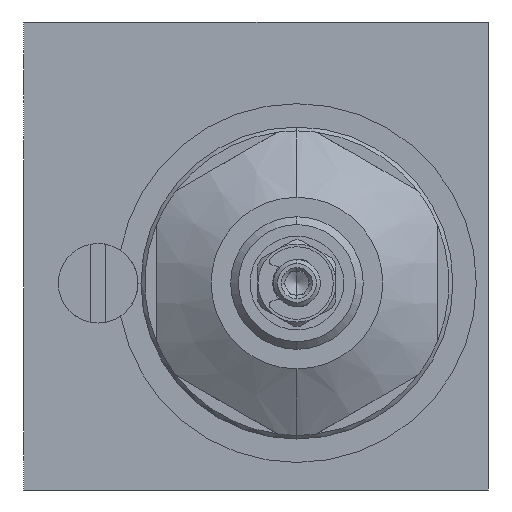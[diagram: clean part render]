
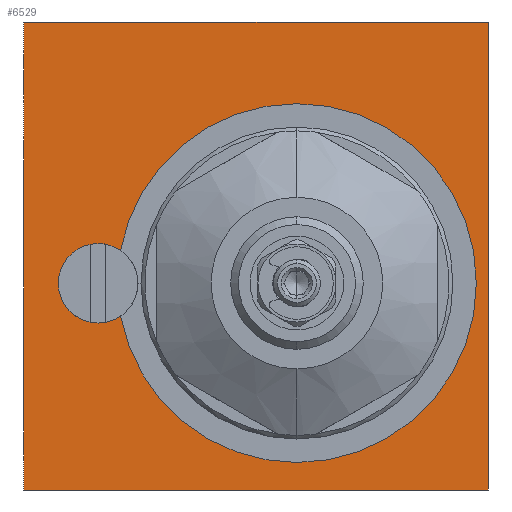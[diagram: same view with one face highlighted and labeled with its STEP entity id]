
A CAD part, left-side view. The second image highlights one B-rep face of the part: STEP entity #6529.
In plain terms, the highlighted planar face has unit normal (-1, 0, 0).
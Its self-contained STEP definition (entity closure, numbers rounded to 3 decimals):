
#782 = VERTEX_POINT ( 'NONE', #9001 ) ;
#988 = DIRECTION ( 'NONE',  ( 0., 0., 1. ) ) ;
#1009 = DIRECTION ( 'NONE',  ( -1., 0., 0. ) ) ;
#1041 = CARTESIAN_POINT ( 'NONE',  ( 0., 29.75, -30. ) ) ;
#1183 = VERTEX_POINT ( 'NONE', #8638 ) ;
#1312 = PLANE ( 'NONE',  #7144 ) ;
#1415 = EDGE_CURVE ( 'NONE', #5901, #782, #6407, .T. ) ;
#1427 = EDGE_CURVE ( 'NONE', #782, #1183, #6354, .T. ) ;
#1605 = VERTEX_POINT ( 'NONE', #1627 ) ;
#1627 = CARTESIAN_POINT ( 'NONE',  ( 0., 20.25, 1.6 ) ) ;
#2294 = VERTEX_POINT ( 'NONE', #3367 ) ;
#3320 = EDGE_CURVE ( 'NONE', #1605, #2294, #10944, .T. ) ;
#3349 = EDGE_CURVE ( 'NONE', #5642, #5901, #10888, .T. ) ;
#3366 = EDGE_CURVE ( 'NONE', #12453, #7062, #10406, .T. ) ;
#3367 = CARTESIAN_POINT ( 'NONE',  ( 0., 20.25, -8.6 ) ) ;
#3368 = EDGE_CURVE ( 'NONE', #7009, #12453, #10436, .T. ) ;
#3373 = EDGE_CURVE ( 'NONE', #3399, #7009, #10416, .T. ) ;
#3387 = EDGE_CURVE ( 'NONE', #7062, #3399, #10219, .T. ) ;
#3399 = VERTEX_POINT ( 'NONE', #5193 ) ;
#3482 = CARTESIAN_POINT ( 'NONE',  ( 0., -5.25, -26.47 ) ) ;
#3686 = AXIS2_PLACEMENT_3D ( 'NONE', #6059, #5934, #5801 ) ;
#3774 = AXIS2_PLACEMENT_3D ( 'NONE', #7511, #7468, #7450 ) ;
#4007 = CIRCLE ( 'NONE', #9696, 5.1 ) ;
#4782 = FACE_BOUND ( 'NONE', #13252, .T. ) ;
#4813 = FACE_OUTER_BOUND ( 'NONE', #12922, .T. ) ;
#5034 = ORIENTED_EDGE ( 'NONE', *, *, #3373, .F. ) ;
#5084 = ORIENTED_EDGE ( 'NONE', *, *, #1427, .F. ) ;
#5104 = DIRECTION ( 'NONE',  ( 0., 0., 1. ) ) ;
#5165 = ORIENTED_EDGE ( 'NONE', *, *, #1415, .F. ) ;
#5193 = CARTESIAN_POINT ( 'NONE',  ( 0., 29.75, 30. ) ) ;
#5210 = ORIENTED_EDGE ( 'NONE', *, *, #3349, .F. ) ;
#5251 = ORIENTED_EDGE ( 'NONE', *, *, #5643, .F. ) ;
#5305 = CARTESIAN_POINT ( 'NONE',  ( 0., 29.75, 30. ) ) ;
#5321 = ORIENTED_EDGE ( 'NONE', *, *, #3366, .F. ) ;
#5335 = ORIENTED_EDGE ( 'NONE', *, *, #3320, .F. ) ;
#5390 = DIRECTION ( 'NONE',  ( 0., 0., 1. ) ) ;
#5418 = DIRECTION ( 'NONE',  ( -1., 0., 0. ) ) ;
#5433 = CARTESIAN_POINT ( 'NONE',  ( 0., 20.25, -3.5 ) ) ;
#5484 = CARTESIAN_POINT ( 'NONE',  ( 0., -29.75, 30. ) ) ;
#5599 = DIRECTION ( 'NONE',  ( 0., 0., -1. ) ) ;
#5615 = CARTESIAN_POINT ( 'NONE',  ( 0., -29.75, 30. ) ) ;
#5642 = VERTEX_POINT ( 'NONE', #8201 ) ;
#5643 = EDGE_CURVE ( 'NONE', #2294, #5642, #9768, .T. ) ;
#5664 = EDGE_CURVE ( 'NONE', #1183, #1605, #4007, .T. ) ;
#5710 = ORIENTED_EDGE ( 'NONE', *, *, #5664, .F. ) ;
#5758 = DIRECTION ( 'NONE',  ( 0., -1., 0. ) ) ;
#5801 = DIRECTION ( 'NONE',  ( 0., 0., 1. ) ) ;
#5901 = VERTEX_POINT ( 'NONE', #3482 ) ;
#5934 = DIRECTION ( 'NONE',  ( -1., 0., 0. ) ) ;
#6059 = CARTESIAN_POINT ( 'NONE',  ( 0., -5.25, -3.47 ) ) ;
#6095 = DIRECTION ( 'NONE',  ( 0., 1., 0. ) ) ;
#6131 = CARTESIAN_POINT ( 'NONE',  ( 0., -29.75, -30. ) ) ;
#6354 = CIRCLE ( 'NONE', #13445, 23. ) ;
#6407 = CIRCLE ( 'NONE', #13448, 23. ) ;
#6529 = ADVANCED_FACE ( 'NONE', ( #4782, #4813 ), #1312, .T. ) ;
#6576 = VECTOR ( 'NONE', #5758, 1000. ) ;
#7009 = VERTEX_POINT ( 'NONE', #14480 ) ;
#7062 = VERTEX_POINT ( 'NONE', #14528 ) ;
#7144 = AXIS2_PLACEMENT_3D ( 'NONE', #1041, #1009, #988 ) ;
#7450 = DIRECTION ( 'NONE',  ( 0., 0., 1. ) ) ;
#7468 = DIRECTION ( 'NONE',  ( -1., 0., 0. ) ) ;
#7511 = CARTESIAN_POINT ( 'NONE',  ( 0., 20.25, -3.5 ) ) ;
#7819 = ORIENTED_EDGE ( 'NONE', *, *, #3368, .F. ) ;
#7914 = ORIENTED_EDGE ( 'NONE', *, *, #3387, .F. ) ;
#7975 = DIRECTION ( 'NONE',  ( 0., 0., 1. ) ) ;
#7996 = DIRECTION ( 'NONE',  ( -1., 0., 0. ) ) ;
#8009 = CARTESIAN_POINT ( 'NONE',  ( 0., 20.25, -3.5 ) ) ;
#8201 = CARTESIAN_POINT ( 'NONE',  ( 0., 17.358, -7.7 ) ) ;
#8638 = CARTESIAN_POINT ( 'NONE',  ( 0., 17.367, 0.707 ) ) ;
#9001 = CARTESIAN_POINT ( 'NONE',  ( 0., -5.25, 19.53 ) ) ;
#9696 = AXIS2_PLACEMENT_3D ( 'NONE', #5433, #5418, #5390 ) ;
#9768 = CIRCLE ( 'NONE', #9956, 5.1 ) ;
#9956 = AXIS2_PLACEMENT_3D ( 'NONE', #8009, #7996, #7975 ) ;
#10199 = VECTOR ( 'NONE', #5104, 1000. ) ;
#10219 = LINE ( 'NONE', #5305, #10199 ) ;
#10364 = VECTOR ( 'NONE', #6095, 1000. ) ;
#10406 = LINE ( 'NONE', #6131, #10364 ) ;
#10416 = LINE ( 'NONE', #5615, #6576 ) ;
#10436 = LINE ( 'NONE', #5484, #10481 ) ;
#10444 = CARTESIAN_POINT ( 'NONE',  ( 0., -29.75, -30. ) ) ;
#10481 = VECTOR ( 'NONE', #5599, 1000. ) ;
#10888 = CIRCLE ( 'NONE', #3686, 23. ) ;
#10944 = CIRCLE ( 'NONE', #3774, 5.1 ) ;
#12176 = CARTESIAN_POINT ( 'NONE',  ( 0., -5.25, -3.47 ) ) ;
#12190 = DIRECTION ( 'NONE',  ( -1., 0., 0. ) ) ;
#12194 = DIRECTION ( 'NONE',  ( 0., 0., 1. ) ) ;
#12287 = CARTESIAN_POINT ( 'NONE',  ( 0., -5.25, -3.47 ) ) ;
#12301 = DIRECTION ( 'NONE',  ( -1., 0., 0. ) ) ;
#12304 = DIRECTION ( 'NONE',  ( 0., 0., 1. ) ) ;
#12453 = VERTEX_POINT ( 'NONE', #10444 ) ;
#12922 = EDGE_LOOP ( 'NONE', ( #5321, #7819, #5034, #7914 ) ) ;
#13252 = EDGE_LOOP ( 'NONE', ( #5710, #5084, #5165, #5210, #5251, #5335 ) ) ;
#13445 = AXIS2_PLACEMENT_3D ( 'NONE', #12287, #12301, #12304 ) ;
#13448 = AXIS2_PLACEMENT_3D ( 'NONE', #12176, #12190, #12194 ) ;
#14480 = CARTESIAN_POINT ( 'NONE',  ( 0., -29.75, 30. ) ) ;
#14528 = CARTESIAN_POINT ( 'NONE',  ( 0., 29.75, -30. ) ) ;
